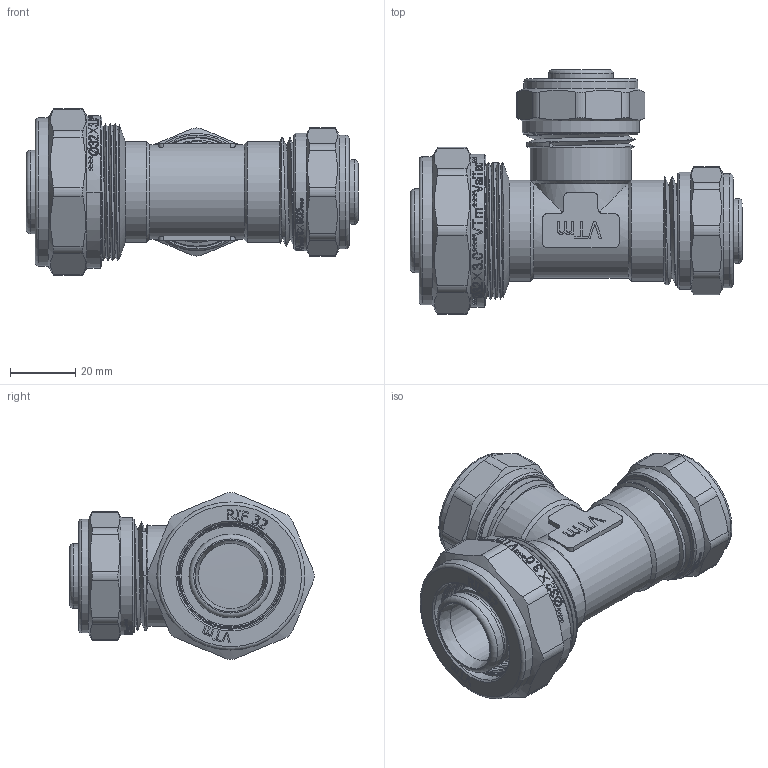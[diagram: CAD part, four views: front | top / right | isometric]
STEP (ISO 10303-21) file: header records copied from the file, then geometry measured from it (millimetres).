
FILE_DESCRIPTION(/* description */ (''),/* implementation_level */ '2;1');
FILE_NAME(/* name */ 'E:\Артём\00000\Работа удаленка\Обжимные фитинги\VTm.331.N.322626.stp',/* time_stamp */ '2020-06-30T13:15:16+03:00',/* author */ ('BeN_GaN'),/* organization */ (''),/* preprocessor_version */ 'ST-DEVELOPER v18',/* originating_system */ 'Autodesk Inventor 2020',/* authorisation */ '');
FILE_SCHEMA (('AUTOMOTIVE_DESIGN { 1 0 10303 214 3 1 1 }'));
Length unit declared in the file: millimetre
Products named in the file (1): VTm.331.N.322626
Bounding box: 102 x 75.15 x 51.3 mm (x, y, z)
Volume: 95217.8 mm3; surface area: 49205.3 mm2
Topology: 1 solids, 1 shells, 2063 faces, 5857 edges, 3949 vertices
Faces by surface type: bspline 1134, plane 557, cylinder 252, torus 72, cone 48
Full cylindrical faces by diameter (mm): 15 x2, 17.4 x4, 19.8 x10, 20 x1, 23.4 x2, 24.516 x8, 25.435 x10, 25.75 x5, 26.2 x2, 26.7 x2, 28.5 x2, 28.7 x4, 29 x1, 30.5 x3, 30.538 x4, 31 x3, 31.683 x5, 32.2 x1, 32.7 x1, 33.3 x1, 35 x2, 35.5 x1, 36 x2, 40.38 x8, 40.5 x3, 42 x3, 45.5 x1
Entity records: 90076 total; most frequent: CARTESIAN_POINT 43806, ORIENTED_EDGE 11714, DIRECTION 6041, EDGE_CURVE 5857, VERTEX_POINT 3950, B_SPLINE_CURVE_WITH_KNOTS 2481, LINE 2475, VECTOR 2475
